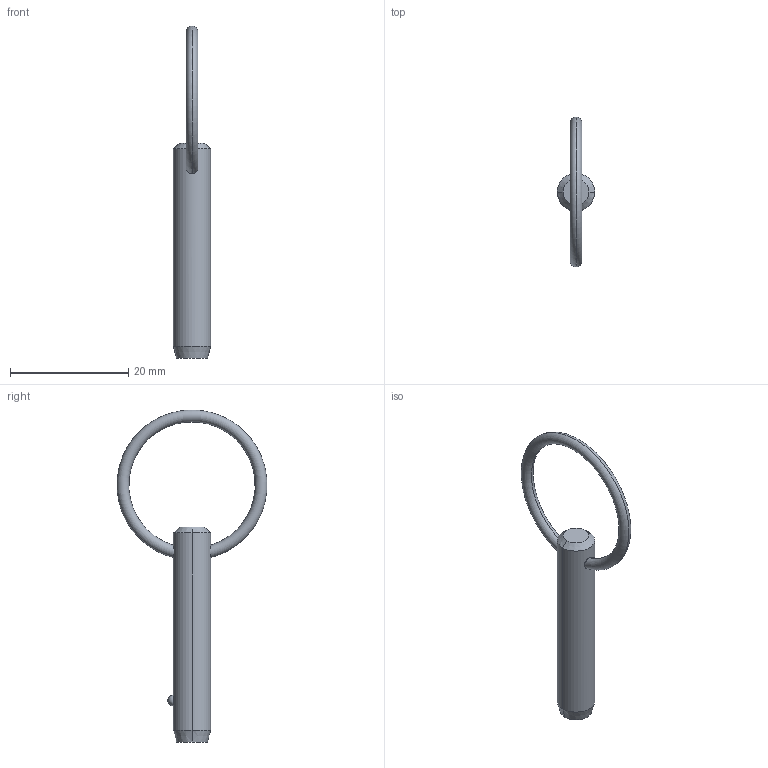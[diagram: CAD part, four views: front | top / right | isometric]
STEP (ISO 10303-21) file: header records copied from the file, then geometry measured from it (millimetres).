
FILE_DESCRIPTION (( 'STEP AP203' ), '1' );
FILE_NAME ('P1250.025-090.step', '2019-07-29T19:39:30', ( '' ), ( '' ), 'SwSTEP 2.0', 'SolidWorks 2017', '' );
FILE_SCHEMA (( 'CONFIG_CONTROL_DESIGN' ));
Length unit declared in the file: millimetre
Products named in the file (1): P1250.025-090
Bounding box: 6.35 x 25.38 x 56.22 mm (x, y, z)
Volume: 1346.4 mm3; surface area: 1183.5 mm2
Topology: 1 solids, 1 shells, 12 faces, 28 edges, 17 vertices
Faces by surface type: cone 4, torus 2, sphere 2, cylinder 2, plane 2
Entity records: 481 total; most frequent: CARTESIAN_POINT 148, DIRECTION 56, ORIENTED_EDGE 48, AXIS2_PLACEMENT_3D 25, EDGE_CURVE 24, EDGE_LOOP 15, VERTEX_POINT 15, CIRCLE 12
